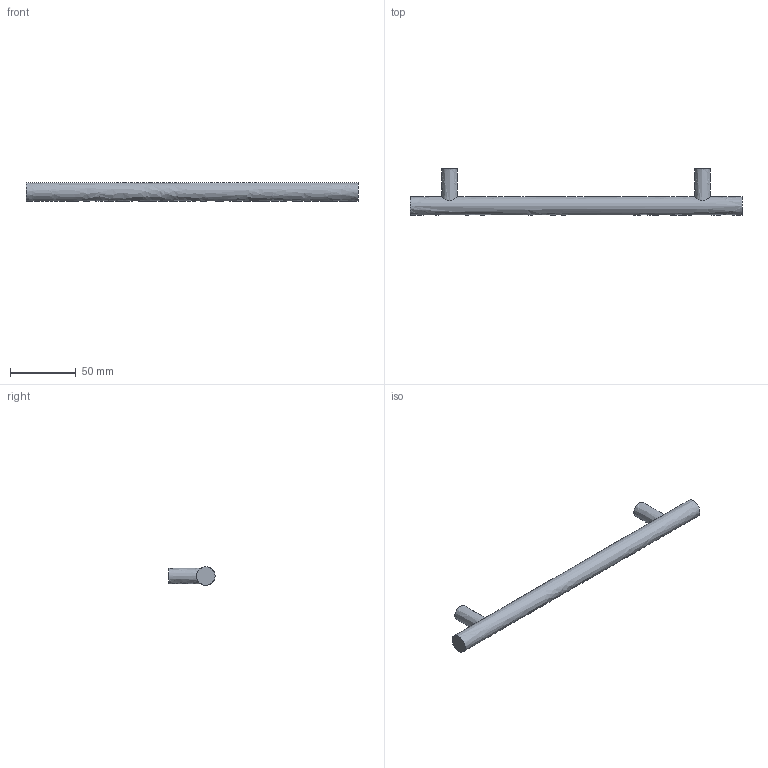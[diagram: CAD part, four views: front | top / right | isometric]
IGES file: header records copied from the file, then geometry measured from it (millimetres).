
Start section: Data from Parasolid IGES Translator 15.0.47, Copyright(c) 2006 Siemens P LM Software. All Rights Reserved.
Global section: file name: 9071050.igs; native system:  By UGS Corp.; preprocessor: XPlus GENERIC/IGES 3.0; author: Noname; organization: Noname; date: 20140122.181407; units: millimetre
Bounding box: 252 x 35 x 14 mm (x, y, z)
Surface area: 13363.2 mm2 (no closed solid volume)
Topology: 0 solids, 0 shells, 11 faces, 30 edges, 22 vertices
Faces by surface type: extrusion 6, revolution 5
